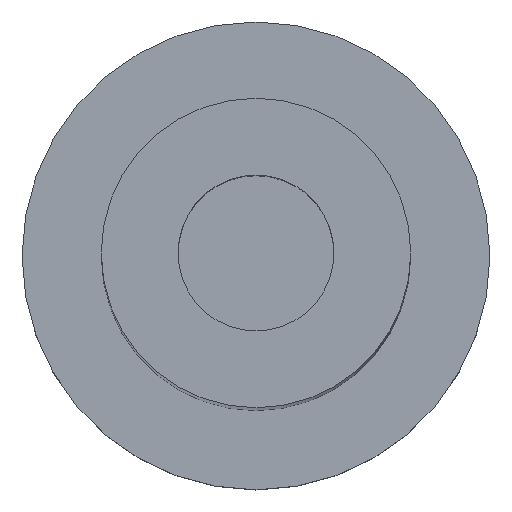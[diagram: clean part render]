
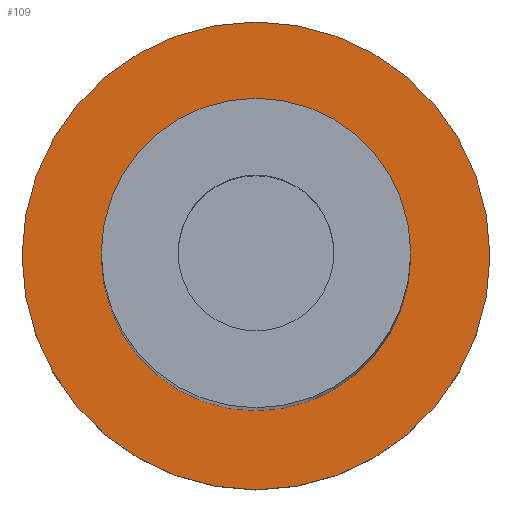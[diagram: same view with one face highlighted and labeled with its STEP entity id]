
A CAD part, top view. The second image highlights one B-rep face of the part: STEP entity #109.
In plain terms, the highlighted planar face has unit normal (0, 0, 1).
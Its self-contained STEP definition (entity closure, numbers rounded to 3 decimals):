
#24 = VERTEX_POINT('',#25);
#25 = CARTESIAN_POINT('',(1.2,0.,-11.1));
#32 = CYLINDRICAL_SURFACE('',#33,1.2);
#33 = AXIS2_PLACEMENT_3D('',#34,#35,#36);
#34 = CARTESIAN_POINT('',(0.,0.,-11.6));
#35 = DIRECTION('',(-0.,-0.,-1.));
#36 = DIRECTION('',(1.,0.,0.));
#51 = EDGE_CURVE('',#24,#24,#52,.T.);
#52 = SURFACE_CURVE('',#53,(#58,#65),.PCURVE_S1.);
#53 = CIRCLE('',#54,1.2);
#54 = AXIS2_PLACEMENT_3D('',#55,#56,#57);
#55 = CARTESIAN_POINT('',(0.,0.,-11.1));
#56 = DIRECTION('',(0.,0.,1.));
#57 = DIRECTION('',(1.,0.,0.));
#58 = PCURVE('',#32,#59);
#59 = DEFINITIONAL_REPRESENTATION('',(#60),#64);
#60 = LINE('',#61,#62);
#61 = CARTESIAN_POINT('',(-0.,-0.5));
#62 = VECTOR('',#63,1.);
#63 = DIRECTION('',(-1.,0.));
#64 = ( GEOMETRIC_REPRESENTATION_CONTEXT(2) 
PARAMETRIC_REPRESENTATION_CONTEXT() REPRESENTATION_CONTEXT('2D SPACE',''
  ) );
#65 = PCURVE('',#66,#71);
#66 = PLANE('',#67);
#67 = AXIS2_PLACEMENT_3D('',#68,#69,#70);
#68 = CARTESIAN_POINT('',(0.,0.,-11.1)
  );
#69 = DIRECTION('',(0.,0.,1.));
#70 = DIRECTION('',(1.,0.,-0.));
#71 = DEFINITIONAL_REPRESENTATION('',(#72),#76);
#72 = CIRCLE('',#73,1.2);
#73 = AXIS2_PLACEMENT_2D('',#74,#75);
#74 = CARTESIAN_POINT('',(0.,0.));
#75 = DIRECTION('',(1.,0.));
#76 = ( GEOMETRIC_REPRESENTATION_CONTEXT(2) 
PARAMETRIC_REPRESENTATION_CONTEXT() REPRESENTATION_CONTEXT('2D SPACE',''
  ) );
#109 = ADVANCED_FACE('',(#110,#113),#66,.T.);
#110 = FACE_BOUND('',#111,.T.);
#111 = EDGE_LOOP('',(#112));
#112 = ORIENTED_EDGE('',*,*,#51,.T.);
#113 = FACE_BOUND('',#114,.T.);
#114 = EDGE_LOOP('',(#115));
#115 = ORIENTED_EDGE('',*,*,#116,.T.);
#116 = EDGE_CURVE('',#117,#117,#119,.T.);
#117 = VERTEX_POINT('',#118);
#118 = CARTESIAN_POINT('',(0.794,0.,-11.1));
#119 = SURFACE_CURVE('',#120,(#125,#136),.PCURVE_S1.);
#120 = CIRCLE('',#121,0.794);
#121 = AXIS2_PLACEMENT_3D('',#122,#123,#124);
#122 = CARTESIAN_POINT('',(0.,0.,-11.1));
#123 = DIRECTION('',(0.,0.,-1.));
#124 = DIRECTION('',(1.,0.,0.));
#125 = PCURVE('',#66,#126);
#126 = DEFINITIONAL_REPRESENTATION('',(#127),#135);
#127 = ( BOUNDED_CURVE() B_SPLINE_CURVE(2,(#128,#129,#130,#131,#132,#133
,#134),.UNSPECIFIED.,.T.,.F.) B_SPLINE_CURVE_WITH_KNOTS((1,2,2,2,2,1),(
    -2.094,0.,2.094,4.189,6.283,
8.378),.UNSPECIFIED.) CURVE() GEOMETRIC_REPRESENTATION_ITEM() 
RATIONAL_B_SPLINE_CURVE((1.,0.5,1.,0.5,1.,0.5,1.)) REPRESENTATION_ITEM(
  '') );
#128 = CARTESIAN_POINT('',(0.794,0.));
#129 = CARTESIAN_POINT('',(0.794,-1.375));
#130 = CARTESIAN_POINT('',(-0.397,-0.688));
#131 = CARTESIAN_POINT('',(-1.588,0.));
#132 = CARTESIAN_POINT('',(-0.397,0.688));
#133 = CARTESIAN_POINT('',(0.794,1.375));
#134 = CARTESIAN_POINT('',(0.794,0.));
#135 = ( GEOMETRIC_REPRESENTATION_CONTEXT(2) 
PARAMETRIC_REPRESENTATION_CONTEXT() REPRESENTATION_CONTEXT('2D SPACE',''
  ) );
#136 = PCURVE('',#137,#142);
#137 = CYLINDRICAL_SURFACE('',#138,0.794);
#138 = AXIS2_PLACEMENT_3D('',#139,#140,#141);
#139 = CARTESIAN_POINT('',(0.,0.,-11.11));
#140 = DIRECTION('',(-0.,-0.,-1.));
#141 = DIRECTION('',(1.,0.,0.));
#142 = DEFINITIONAL_REPRESENTATION('',(#143),#147);
#143 = LINE('',#144,#145);
#144 = CARTESIAN_POINT('',(-6.283,-0.01));
#145 = VECTOR('',#146,1.);
#146 = DIRECTION('',(1.,-0.));
#147 = ( GEOMETRIC_REPRESENTATION_CONTEXT(2) 
PARAMETRIC_REPRESENTATION_CONTEXT() REPRESENTATION_CONTEXT('2D SPACE',''
  ) );
